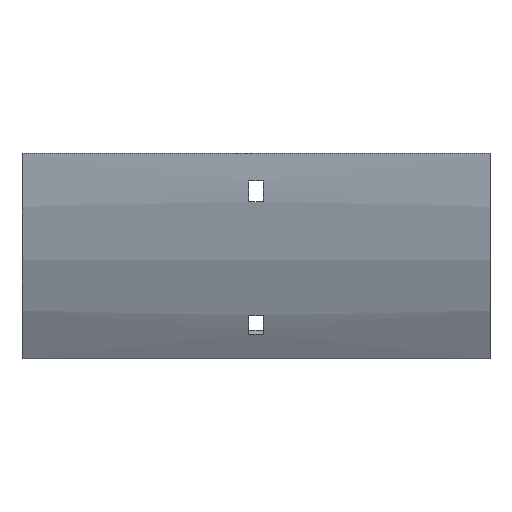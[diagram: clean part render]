
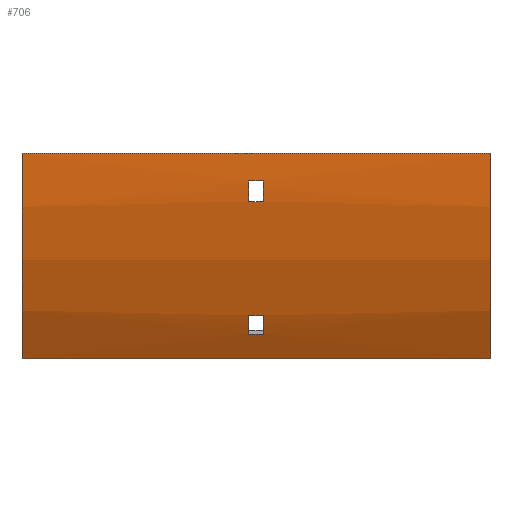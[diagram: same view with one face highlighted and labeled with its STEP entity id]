
A CAD part, front view. The second image highlights one B-rep face of the part: STEP entity #706.
In plain terms, the highlighted cylindrical face has radius 179 mm (diameter 358 mm), a partial arc.
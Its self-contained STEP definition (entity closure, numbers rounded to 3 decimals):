
#20 = AXIS2_PLACEMENT_3D ( 'NONE', #849, #1515, #311 ) ;
#22 = CARTESIAN_POINT ( 'NONE',  ( 102., -79., 0. ) ) ;
#40 = AXIS2_PLACEMENT_3D ( 'NONE', #941, #402, #384 ) ;
#72 = LINE ( 'NONE', #446, #341 ) ;
#75 = CARTESIAN_POINT ( 'NONE',  ( 3.25, -64.448, -70.695 ) ) ;
#77 = VERTEX_POINT ( 'NONE', #1074 ) ;
#103 = VERTEX_POINT ( 'NONE', #1647 ) ;
#112 = ORIENTED_EDGE ( 'NONE', *, *, #1037, .F. ) ;
#154 = AXIS2_PLACEMENT_3D ( 'NONE', #799, #810, #1202 ) ;
#173 = EDGE_CURVE ( 'NONE', #876, #1578, #351, .T. ) ;
#241 = EDGE_CURVE ( 'NONE', #879, #77, #1065, .T. ) ;
#281 = EDGE_LOOP ( 'NONE', ( #674, #1112, #1150, #406 ) ) ;
#300 = VERTEX_POINT ( 'NONE', #396 ) ;
#303 = DIRECTION ( 'NONE',  ( -1., 0., 0. ) ) ;
#310 = CARTESIAN_POINT ( 'NONE',  ( 102., 100., 0. ) ) ;
#311 = DIRECTION ( 'NONE',  ( 0., 0., -1. ) ) ;
#312 = ORIENTED_EDGE ( 'NONE', *, *, #241, .F. ) ;
#341 = VECTOR ( 'NONE', #598, 1000. ) ;
#351 = LINE ( 'NONE', #1149, #382 ) ;
#361 = VERTEX_POINT ( 'NONE', #1056 ) ;
#382 = VECTOR ( 'NONE', #1400, 1000. ) ;
#384 = DIRECTION ( 'NONE',  ( 0., 0., -1. ) ) ;
#396 = CARTESIAN_POINT ( 'NONE',  ( 102., -79., 0. ) ) ;
#397 = VECTOR ( 'NONE', #630, 1000. ) ;
#402 = DIRECTION ( 'NONE',  ( 1., 0., 0. ) ) ;
#404 = EDGE_LOOP ( 'NONE', ( #1596, #934, #1538, #904 ) ) ;
#406 = ORIENTED_EDGE ( 'NONE', *, *, #1177, .T. ) ;
#413 = VERTEX_POINT ( 'NONE', #541 ) ;
#446 = CARTESIAN_POINT ( 'NONE',  ( 102., -64.448, -70.695 ) ) ;
#454 = DIRECTION ( 'NONE',  ( -1., 0., 0. ) ) ;
#455 = LINE ( 'NONE', #1472, #663 ) ;
#497 = CIRCLE ( 'NONE', #40, 179. ) ;
#508 = CARTESIAN_POINT ( 'NONE',  ( 102., -60.67, -78.906 ) ) ;
#509 = VERTEX_POINT ( 'NONE', #1092 ) ;
#521 = EDGE_CURVE ( 'NONE', #300, #1176, #497, .T. ) ;
#538 = CARTESIAN_POINT ( 'NONE',  ( 3.25, 100., 0. ) ) ;
#541 = CARTESIAN_POINT ( 'NONE',  ( -102., -55.019, -89.5 ) ) ;
#546 = CARTESIAN_POINT ( 'NONE',  ( -3.25, -77.764, -21. ) ) ;
#598 = DIRECTION ( 'NONE',  ( -1., 0., 0. ) ) ;
#630 = DIRECTION ( 'NONE',  ( 1., 0., 0. ) ) ;
#651 = EDGE_CURVE ( 'NONE', #1176, #413, #455, .T. ) ;
#663 = VECTOR ( 'NONE', #303, 1000. ) ;
#674 = ORIENTED_EDGE ( 'NONE', *, *, #173, .T. ) ;
#706 = ADVANCED_FACE ( 'NONE', ( #1440, #1688, #1069 ), #1504, .T. ) ;
#746 = AXIS2_PLACEMENT_3D ( 'NONE', #1204, #792, #1600 ) ;
#765 = DIRECTION ( 'NONE',  ( 1., 0., 0. ) ) ;
#780 = LINE ( 'NONE', #1276, #397 ) ;
#792 = DIRECTION ( 'NONE',  ( 1., 0., 0. ) ) ;
#794 = EDGE_LOOP ( 'NONE', ( #1040, #899, #112, #312 ) ) ;
#799 = CARTESIAN_POINT ( 'NONE',  ( -3.25, 100., 0. ) ) ;
#803 = CIRCLE ( 'NONE', #746, 179. ) ;
#810 = DIRECTION ( 'NONE',  ( -1., 0., 0. ) ) ;
#849 = CARTESIAN_POINT ( 'NONE',  ( -102., 100., 0. ) ) ;
#876 = VERTEX_POINT ( 'NONE', #1264 ) ;
#879 = VERTEX_POINT ( 'NONE', #1153 ) ;
#886 = DIRECTION ( 'NONE',  ( 0., 0., 1. ) ) ;
#899 = ORIENTED_EDGE ( 'NONE', *, *, #1623, .F. ) ;
#904 = ORIENTED_EDGE ( 'NONE', *, *, #1517, .T. ) ;
#930 = CARTESIAN_POINT ( 'NONE',  ( -3.25, -78.597, -12. ) ) ;
#934 = ORIENTED_EDGE ( 'NONE', *, *, #651, .F. ) ;
#941 = CARTESIAN_POINT ( 'NONE',  ( 102., 100., 0. ) ) ;
#1037 = EDGE_CURVE ( 'NONE', #77, #1190, #1458, .T. ) ;
#1040 = ORIENTED_EDGE ( 'NONE', *, *, #1085, .F. ) ;
#1056 = CARTESIAN_POINT ( 'NONE',  ( -3.25, -64.448, -70.695 ) ) ;
#1059 = VERTEX_POINT ( 'NONE', #930 ) ;
#1062 = CIRCLE ( 'NONE', #1272, 179. ) ;
#1065 = LINE ( 'NONE', #508, #1444 ) ;
#1069 = FACE_BOUND ( 'NONE', #794, .T. ) ;
#1072 = CARTESIAN_POINT ( 'NONE',  ( 102., -55.019, -89.5 ) ) ;
#1074 = CARTESIAN_POINT ( 'NONE',  ( 3.25, -60.67, -78.906 ) ) ;
#1085 = EDGE_CURVE ( 'NONE', #361, #879, #803, .T. ) ;
#1092 = CARTESIAN_POINT ( 'NONE',  ( 3.25, -78.597, -12. ) ) ;
#1112 = ORIENTED_EDGE ( 'NONE', *, *, #1575, .T. ) ;
#1148 = CARTESIAN_POINT ( 'NONE',  ( 3.25, 100., 0. ) ) ;
#1149 = CARTESIAN_POINT ( 'NONE',  ( 102., -77.764, -21. ) ) ;
#1150 = ORIENTED_EDGE ( 'NONE', *, *, #1438, .T. ) ;
#1153 = CARTESIAN_POINT ( 'NONE',  ( -3.25, -60.67, -78.906 ) ) ;
#1176 = VERTEX_POINT ( 'NONE', #1072 ) ;
#1177 = EDGE_CURVE ( 'NONE', #509, #876, #1062, .T. ) ;
#1178 = LINE ( 'NONE', #22, #1357 ) ;
#1190 = VERTEX_POINT ( 'NONE', #75 ) ;
#1193 = CIRCLE ( 'NONE', #20, 179. ) ;
#1202 = DIRECTION ( 'NONE',  ( 0., 0., 1. ) ) ;
#1204 = CARTESIAN_POINT ( 'NONE',  ( -3.25, 100., 0. ) ) ;
#1220 = DIRECTION ( 'NONE',  ( 0., 0., 1. ) ) ;
#1256 = EDGE_CURVE ( 'NONE', #103, #413, #1193, .T. ) ;
#1264 = CARTESIAN_POINT ( 'NONE',  ( 3.25, -77.764, -21. ) ) ;
#1272 = AXIS2_PLACEMENT_3D ( 'NONE', #538, #1330, #1591 ) ;
#1276 = CARTESIAN_POINT ( 'NONE',  ( 102., -78.597, -12. ) ) ;
#1301 = AXIS2_PLACEMENT_3D ( 'NONE', #310, #454, #1220 ) ;
#1323 = AXIS2_PLACEMENT_3D ( 'NONE', #1148, #1539, #886 ) ;
#1330 = DIRECTION ( 'NONE',  ( 1., 0., 0. ) ) ;
#1357 = VECTOR ( 'NONE', #1581, 1000. ) ;
#1400 = DIRECTION ( 'NONE',  ( -1., 0., 0. ) ) ;
#1438 = EDGE_CURVE ( 'NONE', #1059, #509, #780, .T. ) ;
#1440 = FACE_OUTER_BOUND ( 'NONE', #404, .T. ) ;
#1444 = VECTOR ( 'NONE', #765, 1000. ) ;
#1458 = CIRCLE ( 'NONE', #1323, 179. ) ;
#1472 = CARTESIAN_POINT ( 'NONE',  ( 102., -55.019, -89.5 ) ) ;
#1504 = CYLINDRICAL_SURFACE ( 'NONE', #1301, 179. ) ;
#1515 = DIRECTION ( 'NONE',  ( 1., 0., 0. ) ) ;
#1517 = EDGE_CURVE ( 'NONE', #300, #103, #1178, .T. ) ;
#1538 = ORIENTED_EDGE ( 'NONE', *, *, #521, .F. ) ;
#1539 = DIRECTION ( 'NONE',  ( -1., 0., 0. ) ) ;
#1575 = EDGE_CURVE ( 'NONE', #1578, #1059, #1637, .T. ) ;
#1578 = VERTEX_POINT ( 'NONE', #546 ) ;
#1581 = DIRECTION ( 'NONE',  ( -1., 0., 0. ) ) ;
#1591 = DIRECTION ( 'NONE',  ( 0., 0., -1. ) ) ;
#1596 = ORIENTED_EDGE ( 'NONE', *, *, #1256, .T. ) ;
#1600 = DIRECTION ( 'NONE',  ( 0., 0., -1. ) ) ;
#1623 = EDGE_CURVE ( 'NONE', #1190, #361, #72, .T. ) ;
#1637 = CIRCLE ( 'NONE', #154, 179. ) ;
#1647 = CARTESIAN_POINT ( 'NONE',  ( -102., -79., 0. ) ) ;
#1688 = FACE_BOUND ( 'NONE', #281, .T. ) ;
